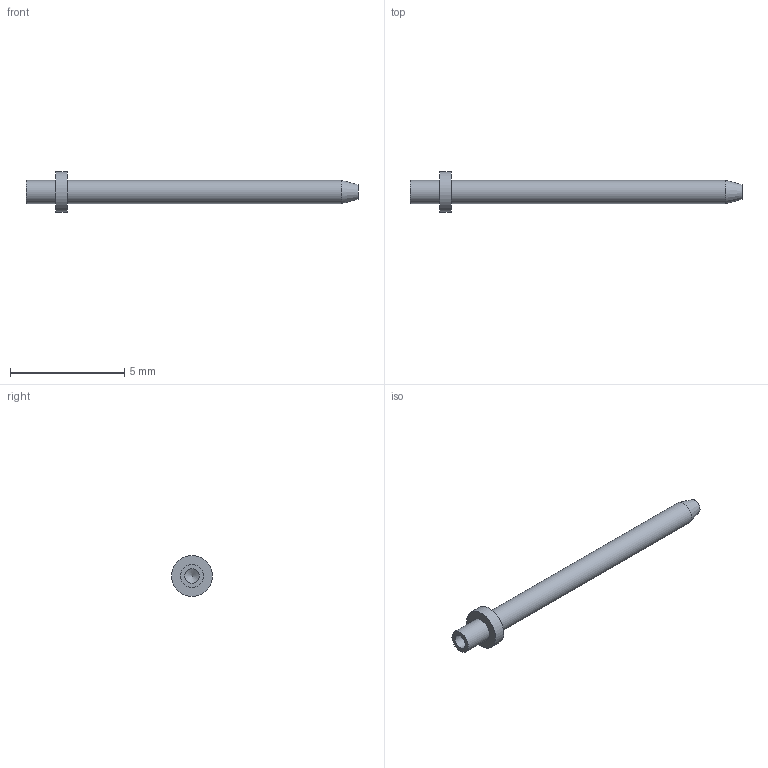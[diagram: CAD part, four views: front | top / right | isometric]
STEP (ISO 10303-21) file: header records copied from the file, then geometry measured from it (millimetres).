
FILE_DESCRIPTION(/* description */ (''),/* implementation_level */ '2;1');
FILE_NAME(/* name */ 'Z:\STEP folder\460294601.ipt.stp',/* time_stamp */ '2016-12-21T13:04:32+00:00',/* author */ ('Paul Karlsons'),/* organization */ (''),/* preprocessor_version */ 'ST-DEVELOPER v15.2',/* originating_system */ 'Autodesk Inventor 2014',/* authorisation */ '');
FILE_SCHEMA (('AUTOMOTIVE_DESIGN { 1 0 10303 214 3 1 1 }'));
Length unit declared in the file: millimetre
Products named in the file (1): 460294601
Bounding box: 14.5 x 1.78 x 1.78 mm (x, y, z)
Volume: 12.1 mm3; surface area: 53.7 mm2
Topology: 1 solids, 1 shells, 10 faces, 16 edges, 10 vertices
Faces by surface type: cylinder 4, plane 4, cone 2
Full cylindrical faces by diameter (mm): 0.635 x1, 1.016 x2, 1.778 x1
Entity records: 215 total; most frequent: DIRECTION 40, CARTESIAN_POINT 29, AXIS2_PLACEMENT_3D 20, EDGE_LOOP 18, ORIENTED_EDGE 18, FACE_BOUND 10, ADVANCED_FACE 10, CIRCLE 9
